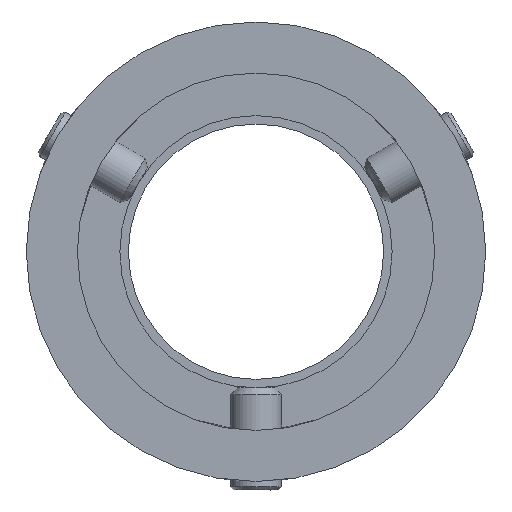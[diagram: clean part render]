
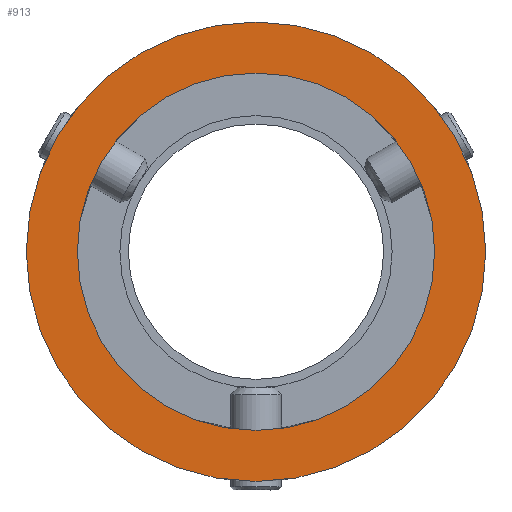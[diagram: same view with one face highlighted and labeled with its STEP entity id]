
A CAD part, front view. The second image highlights one B-rep face of the part: STEP entity #913.
In plain terms, the highlighted planar face has unit normal (0, -1, 0).
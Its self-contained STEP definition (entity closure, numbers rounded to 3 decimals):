
#68 = EDGE_CURVE ( 'NONE', #1195, #821, #1268, .T. ) ;
#158 = DIRECTION ( 'NONE',  ( 0., 0., -1. ) ) ;
#253 = ORIENTED_EDGE ( 'NONE', *, *, #68, .T. ) ;
#436 = DIRECTION ( 'NONE',  ( 0., 0., -1. ) ) ;
#443 = CARTESIAN_POINT ( 'NONE',  ( 0., 0., 0. ) ) ;
#450 = EDGE_CURVE ( 'NONE', #1511, #1254, #1665, .T. ) ;
#479 = EDGE_CURVE ( 'NONE', #821, #1195, #1600, .T. ) ;
#534 = DIRECTION ( 'NONE',  ( 0., 0., -1. ) ) ;
#611 = EDGE_LOOP ( 'NONE', ( #774, #1982 ) ) ;
#640 = AXIS2_PLACEMENT_3D ( 'NONE', #1803, #1837, #436 ) ;
#774 = ORIENTED_EDGE ( 'NONE', *, *, #450, .F. ) ;
#779 = DIRECTION ( 'NONE',  ( 0., -1., 0. ) ) ;
#782 = CARTESIAN_POINT ( 'NONE',  ( 0., 0., 0. ) ) ;
#821 = VERTEX_POINT ( 'NONE', #1584 ) ;
#869 = CIRCLE ( 'NONE', #1180, 10.5 ) ;
#913 = ADVANCED_FACE ( 'NONE', ( #1092, #1962 ), #1562, .T. ) ;
#938 = DIRECTION ( 'NONE',  ( 0., 0., -1. ) ) ;
#949 = DIRECTION ( 'NONE',  ( 0., -1., 0. ) ) ;
#953 = CARTESIAN_POINT ( 'NONE',  ( 0., 0., 0. ) ) ;
#1092 = FACE_BOUND ( 'NONE', #611, .T. ) ;
#1180 = AXIS2_PLACEMENT_3D ( 'NONE', #443, #1479, #1305 ) ;
#1195 = VERTEX_POINT ( 'NONE', #1530 ) ;
#1217 = CARTESIAN_POINT ( 'NONE',  ( 7.5, 0., 0. ) ) ;
#1254 = VERTEX_POINT ( 'NONE', #1886 ) ;
#1268 = CIRCLE ( 'NONE', #640, 13.5 ) ;
#1305 = DIRECTION ( 'NONE',  ( 0., 0., -1. ) ) ;
#1341 = AXIS2_PLACEMENT_3D ( 'NONE', #1217, #1384, #158 ) ;
#1384 = DIRECTION ( 'NONE',  ( 0., -1., 0. ) ) ;
#1391 = ORIENTED_EDGE ( 'NONE', *, *, #479, .T. ) ;
#1470 = EDGE_CURVE ( 'NONE', #1254, #1511, #869, .T. ) ;
#1479 = DIRECTION ( 'NONE',  ( 0., -1., 0. ) ) ;
#1511 = VERTEX_POINT ( 'NONE', #1975 ) ;
#1530 = CARTESIAN_POINT ( 'NONE',  ( 0., 0., 13.5 ) ) ;
#1562 = PLANE ( 'NONE',  #1341 ) ;
#1584 = CARTESIAN_POINT ( 'NONE',  ( 0., 0., -13.5 ) ) ;
#1600 = CIRCLE ( 'NONE', #1666, 13.5 ) ;
#1613 = EDGE_LOOP ( 'NONE', ( #1391, #253 ) ) ;
#1665 = CIRCLE ( 'NONE', #1702, 10.5 ) ;
#1666 = AXIS2_PLACEMENT_3D ( 'NONE', #782, #779, #534 ) ;
#1702 = AXIS2_PLACEMENT_3D ( 'NONE', #953, #949, #938 ) ;
#1803 = CARTESIAN_POINT ( 'NONE',  ( 0., 0., 0. ) ) ;
#1837 = DIRECTION ( 'NONE',  ( 0., -1., 0. ) ) ;
#1886 = CARTESIAN_POINT ( 'NONE',  ( 0., 0., 10.5 ) ) ;
#1962 = FACE_OUTER_BOUND ( 'NONE', #1613, .T. ) ;
#1975 = CARTESIAN_POINT ( 'NONE',  ( 0., 0., -10.5 ) ) ;
#1982 = ORIENTED_EDGE ( 'NONE', *, *, #1470, .F. ) ;
